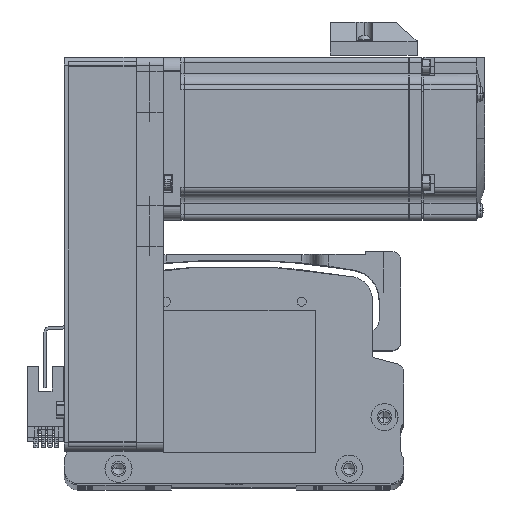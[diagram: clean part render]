
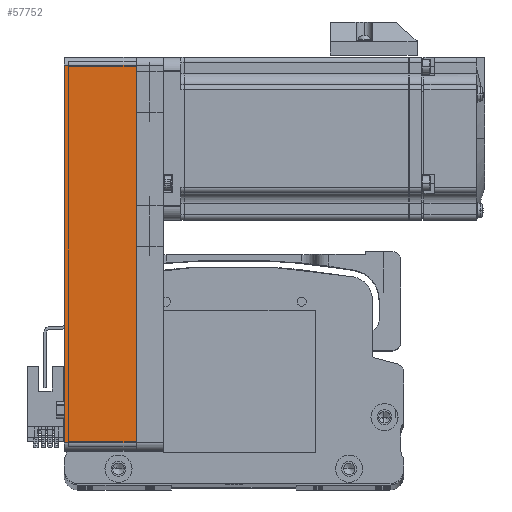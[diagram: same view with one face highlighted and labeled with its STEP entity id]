
A CAD part, top view. The second image highlights one B-rep face of the part: STEP entity #57752.
In plain terms, the highlighted planar face has unit normal (0, 0, 1) as drawn and (0, -1, 0) by its records, which use the part's own axes.
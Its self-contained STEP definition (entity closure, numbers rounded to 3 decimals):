
#858 = LINE ( 'NONE', #5256, #48793 ) ;
#1791 = CARTESIAN_POINT ( 'NONE',  ( -69.5, -30., 26.5 ) ) ;
#5256 = CARTESIAN_POINT ( 'NONE',  ( 69.5, -30., 26.5 ) ) ;
#5491 = CARTESIAN_POINT ( 'NONE',  ( 69.5, -30., 0. ) ) ;
#7132 = VERTEX_POINT ( 'NONE', #5491 ) ;
#9486 = VERTEX_POINT ( 'NONE', #1791 ) ;
#17561 = LINE ( 'NONE', #29368, #19571 ) ;
#19571 = VECTOR ( 'NONE', #81496, 1000. ) ;
#23486 = VECTOR ( 'NONE', #53289, 1000. ) ;
#27937 = PLANE ( 'NONE',  #41829 ) ;
#28214 = DIRECTION ( 'NONE',  ( 0., 1., 0. ) ) ;
#28280 = ORIENTED_EDGE ( 'NONE', *, *, #44035, .F. ) ;
#29368 = CARTESIAN_POINT ( 'NONE',  ( 72.5, -30., 26.5 ) ) ;
#30990 = FACE_OUTER_BOUND ( 'NONE', #63271, .T. ) ;
#36660 = EDGE_CURVE ( 'NONE', #9486, #54925, #38782, .T. ) ;
#38782 = LINE ( 'NONE', #46744, #23486 ) ;
#41829 = AXIS2_PLACEMENT_3D ( 'NONE', #67281, #28214, #73802 ) ;
#41878 = VECTOR ( 'NONE', #52309, 1000. ) ;
#44035 = EDGE_CURVE ( 'NONE', #9486, #49174, #17561, .T. ) ;
#44289 = DIRECTION ( 'NONE',  ( 0., 0., 1. ) ) ;
#46744 = CARTESIAN_POINT ( 'NONE',  ( -69.5, -30., 26.5 ) ) ;
#48413 = ORIENTED_EDGE ( 'NONE', *, *, #72518, .T. ) ;
#48793 = VECTOR ( 'NONE', #44289, 1000. ) ;
#49174 = VERTEX_POINT ( 'NONE', #64518 ) ;
#52309 = DIRECTION ( 'NONE',  ( 1., 0., 0. ) ) ;
#53289 = DIRECTION ( 'NONE',  ( 0., 0., -1. ) ) ;
#54925 = VERTEX_POINT ( 'NONE', #73505 ) ;
#57752 = ADVANCED_FACE ( 'NONE', ( #30990 ), #27937, .F. ) ;
#59194 = LINE ( 'NONE', #65148, #41878 ) ;
#60826 = EDGE_CURVE ( 'NONE', #7132, #49174, #858, .T. ) ;
#63271 = EDGE_LOOP ( 'NONE', ( #48413, #64181, #28280, #64299 ) ) ;
#64181 = ORIENTED_EDGE ( 'NONE', *, *, #60826, .T. ) ;
#64299 = ORIENTED_EDGE ( 'NONE', *, *, #36660, .T. ) ;
#64518 = CARTESIAN_POINT ( 'NONE',  ( 69.5, -30., 26.5 ) ) ;
#65148 = CARTESIAN_POINT ( 'NONE',  ( 72.5, -30., 0. ) ) ;
#67281 = CARTESIAN_POINT ( 'NONE',  ( 72.5, -30., 26.5 ) ) ;
#72518 = EDGE_CURVE ( 'NONE', #54925, #7132, #59194, .T. ) ;
#73505 = CARTESIAN_POINT ( 'NONE',  ( -69.5, -30., 0. ) ) ;
#73802 = DIRECTION ( 'NONE',  ( -1., 0., 0. ) ) ;
#81496 = DIRECTION ( 'NONE',  ( 1., 0., 0. ) ) ;
